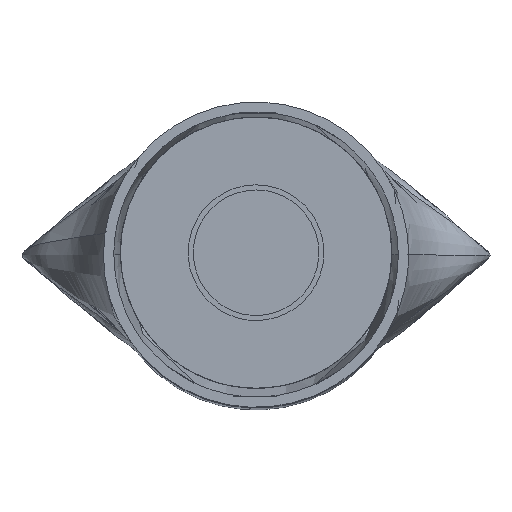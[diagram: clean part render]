
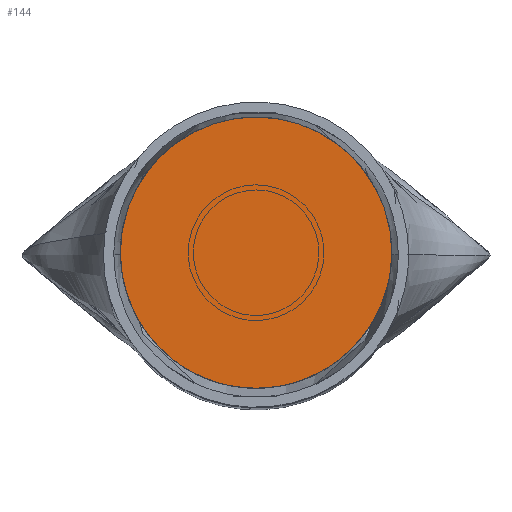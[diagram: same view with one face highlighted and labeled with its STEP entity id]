
A CAD part, top view. The second image highlights one B-rep face of the part: STEP entity #144.
In plain terms, the highlighted free-form (B-spline) face has degree [1, 1] with [2, 2] control points.
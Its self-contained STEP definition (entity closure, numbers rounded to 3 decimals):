
#144=ADVANCED_FACE('',(#212),#2139,.T.);
#212=FACE_OUTER_BOUND('',#288,.T.);
#288=EDGE_LOOP('',(#497,#498,#499));
#497=ORIENTED_EDGE('',*,*,#1626,.T.);
#498=ORIENTED_EDGE('',*,*,#1627,.T.);
#499=ORIENTED_EDGE('',*,*,#1628,.T.);
#712=(
BOUNDED_CURVE()
B_SPLINE_CURVE(2,(#20936,#20937,#20938),.UNSPECIFIED.,.F.,.F.)
B_SPLINE_CURVE_WITH_KNOTS((3,3),(-125.664,-62.832),
 .UNSPECIFIED.)
CURVE()
GEOMETRIC_REPRESENTATION_ITEM()
RATIONAL_B_SPLINE_CURVE((1.,0.707,1.))
REPRESENTATION_ITEM('')
);
#713=(
BOUNDED_CURVE()
B_SPLINE_CURVE(2,(#20939,#20940,#20941),.UNSPECIFIED.,.F.,.F.)
B_SPLINE_CURVE_WITH_KNOTS((3,3),(-125.664,-62.832),
 .UNSPECIFIED.)
CURVE()
GEOMETRIC_REPRESENTATION_ITEM()
RATIONAL_B_SPLINE_CURVE((1.,0.707,1.))
REPRESENTATION_ITEM('')
);
#714=(
BOUNDED_CURVE()
B_SPLINE_CURVE(2,(#20942,#20943,#20944),.UNSPECIFIED.,.F.,.F.)
B_SPLINE_CURVE_WITH_KNOTS((3,3),(-62.832,0.),.UNSPECIFIED.)
CURVE()
GEOMETRIC_REPRESENTATION_ITEM()
RATIONAL_B_SPLINE_CURVE((1.,0.707,1.))
REPRESENTATION_ITEM('')
);
#715=(
BOUNDED_CURVE()
B_SPLINE_CURVE(2,(#20945,#20946,#20947),.UNSPECIFIED.,.F.,.F.)
B_SPLINE_CURVE_WITH_KNOTS((3,3),(-62.832,0.),.UNSPECIFIED.)
CURVE()
GEOMETRIC_REPRESENTATION_ITEM()
RATIONAL_B_SPLINE_CURVE((1.,0.707,1.))
REPRESENTATION_ITEM('')
);
#716=(
BOUNDED_CURVE()
B_SPLINE_CURVE(2,(#20948,#20949,#20950,#20951,#20952),.UNSPECIFIED.,.F.,
 .F.)
B_SPLINE_CURVE_WITH_KNOTS((3,2,3),(-251.327,-188.496,
-125.664),.UNSPECIFIED.)
CURVE()
GEOMETRIC_REPRESENTATION_ITEM()
RATIONAL_B_SPLINE_CURVE((1.,0.707,1.,0.707,1.))
REPRESENTATION_ITEM('')
);
#717=(
BOUNDED_CURVE()
B_SPLINE_CURVE(2,(#20953,#20954,#20955,#20956,#20957),.UNSPECIFIED.,.F.,
 .F.)
B_SPLINE_CURVE_WITH_KNOTS((3,2,3),(-251.327,-188.496,
-125.664),.UNSPECIFIED.)
CURVE()
GEOMETRIC_REPRESENTATION_ITEM()
RATIONAL_B_SPLINE_CURVE((1.,0.707,1.,0.707,1.))
REPRESENTATION_ITEM('')
);
#961=PCURVE('',#2139,#1262);
#962=PCURVE('',#2139,#1263);
#963=PCURVE('',#2139,#1264);
#970=PCURVE('',#2105,#1271);
#971=PCURVE('',#2105,#1272);
#973=PCURVE('',#2106,#1274);
#1262=DEFINITIONAL_REPRESENTATION('',(#713),#21830);
#1263=DEFINITIONAL_REPRESENTATION('',(#715),#21830);
#1264=DEFINITIONAL_REPRESENTATION('',(#717),#21830);
#1271=DEFINITIONAL_REPRESENTATION('',(#1867),#21830);
#1272=DEFINITIONAL_REPRESENTATION('',(#1868),#21830);
#1274=DEFINITIONAL_REPRESENTATION('',(#1871),#21830);
#1475=SURFACE_CURVE('',#712,(#961,#970),.PCURVE_S1.);
#1476=SURFACE_CURVE('',#714,(#962,#973),.PCURVE_S1.);
#1477=SURFACE_CURVE('',#716,(#963,#971),.PCURVE_S1.);
#1626=EDGE_CURVE('',#2037,#2042,#1475,.T.);
#1627=EDGE_CURVE('',#2042,#2038,#1476,.T.);
#1628=EDGE_CURVE('',#2038,#2037,#1477,.T.);
#1867=B_SPLINE_CURVE_WITH_KNOTS('',1,(#20988,#20989),.UNSPECIFIED.,.F.,
 .F.,(2,2),(-125.664,-62.832),.UNSPECIFIED.);
#1868=B_SPLINE_CURVE_WITH_KNOTS('',1,(#20990,#20991),.UNSPECIFIED.,.F.,
 .F.,(2,2),(-251.327,-125.664),.UNSPECIFIED.);
#1871=B_SPLINE_CURVE_WITH_KNOTS('',1,(#20996,#20997),.UNSPECIFIED.,.F.,
 .F.,(2,2),(-62.832,0.),.UNSPECIFIED.);
#2037=VERTEX_POINT('',#20930);
#2038=VERTEX_POINT('',#20931);
#2042=VERTEX_POINT('',#20935);
#2105=(
BOUNDED_SURFACE()
B_SPLINE_SURFACE(2,1,((#20894,#20895),(#20896,#20897),(#20898,#20899),(#20900,
#20901),(#20902,#20903),(#20904,#20905),(#20906,#20907),(#20908,#20909),
(#20910,#20911)),.UNSPECIFIED.,.T.,.F.,.F.)
B_SPLINE_SURFACE_WITH_KNOTS((3,2,2,2,3),(2,2),(0.,62.832,125.664,
188.496,251.327),(0.,2.04),.UNSPECIFIED.)
GEOMETRIC_REPRESENTATION_ITEM()
RATIONAL_B_SPLINE_SURFACE(((1.,1.),(0.707,0.707),
(1.,1.),(0.707,0.707),(1.,1.),(0.707,
0.707),(1.,1.),(0.707,0.707),(1.,1.)))
REPRESENTATION_ITEM('')
SURFACE()
);
#2106=(
BOUNDED_SURFACE()
B_SPLINE_SURFACE(2,1,((#20912,#20913),(#20914,#20915),(#20916,#20917),(#20918,
#20919),(#20920,#20921),(#20922,#20923),(#20924,#20925),(#20926,#20927),
(#20928,#20929)),.UNSPECIFIED.,.T.,.F.,.F.)
B_SPLINE_SURFACE_WITH_KNOTS((3,2,2,2,3),(2,2),(0.,62.832,125.664,
188.496,251.327),(0.,2.04),.UNSPECIFIED.)
GEOMETRIC_REPRESENTATION_ITEM()
RATIONAL_B_SPLINE_SURFACE(((1.,1.),(0.707,0.707),
(1.,1.),(0.707,0.707),(1.,1.),(0.707,
0.707),(1.,1.),(0.707,0.707),(1.,1.)))
REPRESENTATION_ITEM('')
SURFACE()
);
#2139=B_SPLINE_SURFACE_WITH_KNOTS('',1,1,((#20886,#20887),(#20888,#20889)),
 .UNSPECIFIED.,.F.,.F.,.F.,(2,2),(2,2),(-48.12,48.12),(-48.12,48.12),
 .UNSPECIFIED.);
#20886=CARTESIAN_POINT('',(-48.12,48.12,479.591));
#20887=CARTESIAN_POINT('',(48.12,48.12,479.591));
#20888=CARTESIAN_POINT('',(-48.12,-48.12,479.591));
#20889=CARTESIAN_POINT('',(48.12,-48.12,479.591));
#20894=CARTESIAN_POINT('',(0.,40.,477.821));
#20895=CARTESIAN_POINT('',(0.,40.,479.861));
#20896=CARTESIAN_POINT('',(-40.,40.,477.821));
#20897=CARTESIAN_POINT('',(-40.,40.,479.861));
#20898=CARTESIAN_POINT('',(-40.,0.,477.821));
#20899=CARTESIAN_POINT('',(-40.,0.,479.861));
#20900=CARTESIAN_POINT('',(-40.,-40.,477.821));
#20901=CARTESIAN_POINT('',(-40.,-40.,479.861));
#20902=CARTESIAN_POINT('',(0.,-40.,477.821));
#20903=CARTESIAN_POINT('',(0.,-40.,479.861));
#20904=CARTESIAN_POINT('',(40.,-40.,477.821));
#20905=CARTESIAN_POINT('',(40.,-40.,479.861));
#20906=CARTESIAN_POINT('',(40.,0.,477.821));
#20907=CARTESIAN_POINT('',(40.,0.,479.861));
#20908=CARTESIAN_POINT('',(40.,40.,477.821));
#20909=CARTESIAN_POINT('',(40.,40.,479.861));
#20910=CARTESIAN_POINT('',(0.,40.,477.821));
#20911=CARTESIAN_POINT('',(0.,40.,479.861));
#20912=CARTESIAN_POINT('',(0.,40.,477.821));
#20913=CARTESIAN_POINT('',(0.,40.,479.861));
#20914=CARTESIAN_POINT('',(-40.,40.,477.821));
#20915=CARTESIAN_POINT('',(-40.,40.,479.861));
#20916=CARTESIAN_POINT('',(-40.,0.,477.821));
#20917=CARTESIAN_POINT('',(-40.,0.,479.861));
#20918=CARTESIAN_POINT('',(-40.,-40.,477.821));
#20919=CARTESIAN_POINT('',(-40.,-40.,479.861));
#20920=CARTESIAN_POINT('',(0.,-40.,477.821));
#20921=CARTESIAN_POINT('',(0.,-40.,479.861));
#20922=CARTESIAN_POINT('',(40.,-40.,477.821));
#20923=CARTESIAN_POINT('',(40.,-40.,479.861));
#20924=CARTESIAN_POINT('',(40.,0.,477.821));
#20925=CARTESIAN_POINT('',(40.,0.,479.861));
#20926=CARTESIAN_POINT('',(40.,40.,477.821));
#20927=CARTESIAN_POINT('',(40.,40.,479.861));
#20928=CARTESIAN_POINT('',(0.,40.,477.821));
#20929=CARTESIAN_POINT('',(0.,40.,479.861));
#20930=CARTESIAN_POINT('',(40.,0.,479.591));
#20931=CARTESIAN_POINT('',(-40.,0.,479.591));
#20935=CARTESIAN_POINT('',(0.,40.,479.591));
#20936=CARTESIAN_POINT('',(40.,0.,479.591));
#20937=CARTESIAN_POINT('',(40.,40.,479.591));
#20938=CARTESIAN_POINT('',(0.,40.,479.591));
#20939=CARTESIAN_POINT('',(0.,40.));
#20940=CARTESIAN_POINT('',(-40.,40.));
#20941=CARTESIAN_POINT('',(-40.,0.));
#20942=CARTESIAN_POINT('',(0.,40.,479.591));
#20943=CARTESIAN_POINT('',(-40.,40.,479.591));
#20944=CARTESIAN_POINT('',(-40.,0.,479.591));
#20945=CARTESIAN_POINT('',(-40.,0.));
#20946=CARTESIAN_POINT('',(-40.,-40.));
#20947=CARTESIAN_POINT('',(0.,-40.));
#20948=CARTESIAN_POINT('',(-40.,0.,479.591));
#20949=CARTESIAN_POINT('',(-40.,-40.,479.591));
#20950=CARTESIAN_POINT('',(0.,-40.,479.591));
#20951=CARTESIAN_POINT('',(40.,-40.,479.591));
#20952=CARTESIAN_POINT('',(40.,0.,479.591));
#20953=CARTESIAN_POINT('',(0.,-40.));
#20954=CARTESIAN_POINT('',(40.,-40.));
#20955=CARTESIAN_POINT('',(40.,0.));
#20956=CARTESIAN_POINT('',(40.,40.));
#20957=CARTESIAN_POINT('',(0.,40.));
#20988=CARTESIAN_POINT('',(188.496,1.77));
#20989=CARTESIAN_POINT('',(251.327,1.77));
#20990=CARTESIAN_POINT('',(62.832,1.77));
#20991=CARTESIAN_POINT('',(188.496,1.77));
#20996=CARTESIAN_POINT('',(0.,1.77));
#20997=CARTESIAN_POINT('',(62.832,1.77));
#21830=(
GEOMETRIC_REPRESENTATION_CONTEXT(2)
PARAMETRIC_REPRESENTATION_CONTEXT()
REPRESENTATION_CONTEXT('pspace','')
);
